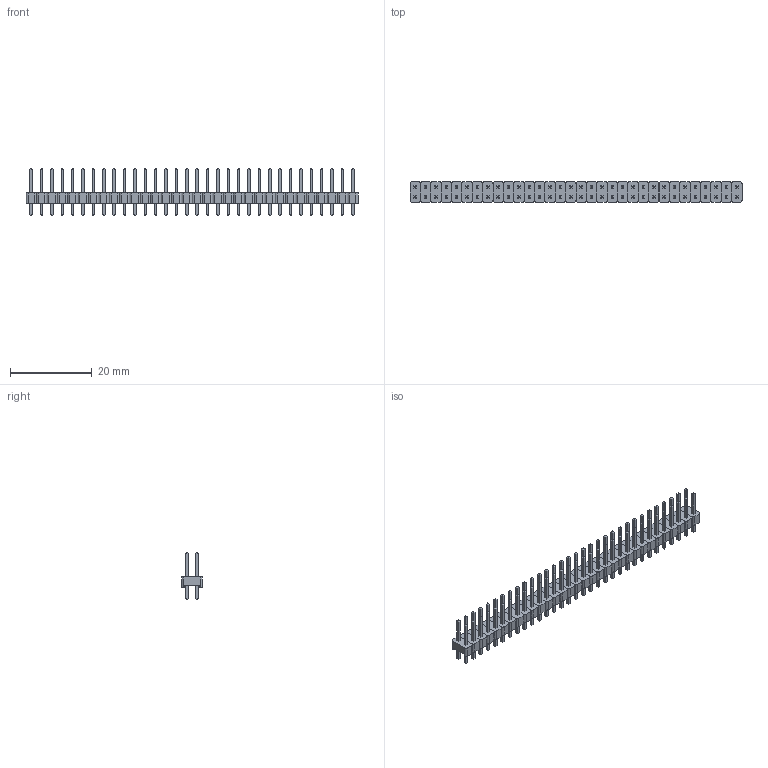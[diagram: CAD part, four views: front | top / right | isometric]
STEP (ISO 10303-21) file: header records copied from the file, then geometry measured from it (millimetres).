
FILE_DESCRIPTION(('FreeCAD Model'),'2;1');
FILE_NAME('Open CASCADE Shape Model','2022-04-06T16:09:40',( 'Engenharia Metaltex'),('Metaltex'), 'Open CASCADE STEP processor 7.5','FreeCAD','Unknown');
FILE_SCHEMA(('AUTOMOTIVE_DESIGN { 1 0 10303 214 1 1 1 1 }'));
Length unit declared in the file: millimetre
Products named in the file (129): BPDC; 32; Base031; Pino064; Pino063; 1; Base; Pino1; Pino2; 2; Base001; Pino003; Pino004; 3; Base002; Pino006; Pino005; 4; Base003; Pino008; Pino007; 5; Base004; Pino009; Pino010; 6; Base005; Pino012; Pino011; 7; Base006; Pino013; Pino014; 8; Base007; Pino015; Pino016; 9; Base008; Pino017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
Assembly tree (128 placements, depth 3):
  BPDC
    32
      Base031
      Pino064
      Pino063
    1
      Base
      Pino1
      Pino2
    2
      Base001
      Pino003
      Pino004
    3
      Base002
      Pino006
      Pino005
    4
      Base003
      Pino008
      Pino007
    5
      Base004
      Pino009
      Pino010
    6
      Base005
      Pino012
      Pino011
    7
      Base006
      Pino013
      Pino014
    8
      Base007
      Pino015
      Pino016
    9
      Base008
      Pino017
      Pino018
    10
      Base009
      Pino019
      Pino020
    11
      Base010
      Pino021
      Pino022
    12
      Base011
      Pino023
      Pino024
    13
      Base012
      Pino025
      Pino026
    14
      Base013
      Pino027
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Bounding box: 81.28 x 5.08 x 11.54 mm (x, y, z)
Volume: 1117.5 mm3; surface area: 4116.2 mm2
Topology: 96 solids, 96 shells, 1600 faces, 3712 edges, 2304 vertices
Faces by surface type: plane 1472, cylinder 128
Entity records: 96019 total; most frequent: CARTESIAN_POINT 15937, DIRECTION 14722, LINE 10624, VECTOR 10624, ORIENTED_EDGE 7424, PCURVE 7424, DEFINITIONAL_REPRESENTATION 7424, EDGE_CURVE 3712
